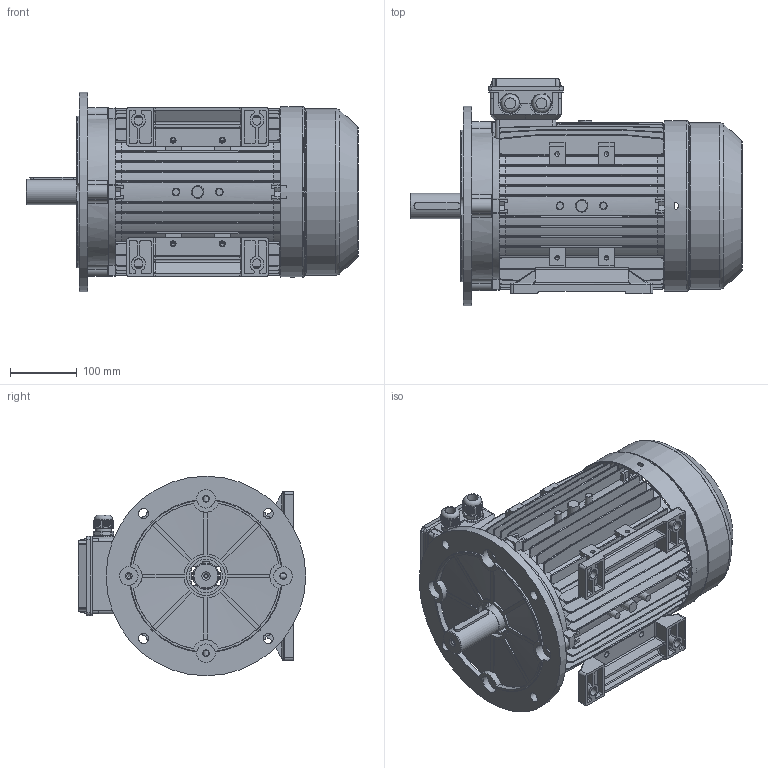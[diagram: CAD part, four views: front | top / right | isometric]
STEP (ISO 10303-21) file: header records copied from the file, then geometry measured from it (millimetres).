
FILE_DESCRIPTION(/* description */ ('STEP AP203'),/* implementation_level */ '2;1');
FILE_NAME(/* name */ 'U:\D2\1_INTRANET\2_3 DATA-SHEET PLAN COURBES\FAM 10 MOTEURS\MH1_MH2_MH3\Plan 3D MH3\MH3-132\MH3-132M4、MX6 assembly B35.STEP',/* time_stamp */ '2022-03-18T14:44:19+01:00',/* author */ ('cao'),/* organization */ ('Microsoft'),/* preprocessor_version */ 'ST-DEVELOPER v17',/* originating_system */ 'Autodesk Inventor 2019',/* authorisation */ '');
FILE_SCHEMA (('AUTOMOTIVE_DESIGN { 1 0 10303 214 3 1 1 }'));
Products named in the file (9): MH3-132M4、MX6 assembly B35; M132»ú¿Ç_L; M132·çÕÖ_117; MS132½ÓÏßºÐ¸Ç; M132¶Ë¸ÇB5; MS132½ÓÏßºÐ×ù_2Holes; M25 cable gland; M132-Shaft drive end_DNF; M132µ×½Å(µ¥¿×)_L
Assembly tree (10 placements, depth 2):
  MH3-132M4、MX6 assembly B35
    M132»ú¿Ç_L
    M132·çÕÖ_117
    MS132½ÓÏßºÐ¸Ç
    M132¶Ë¸ÇB5
    MS132½ÓÏßºÐ×ù_2Holes
    M25 cable gland  x2
    M132-Shaft drive end_DNF
    M132µ×½Å(µ¥¿×)_L  x2
Bounding box: 498.99 x 342 x 300 mm (x, y, z)
Volume: 2874247.1 mm3; surface area: 1493318.9 mm2
Topology: 12 solids, 12 shells, 3638 faces, 10179 edges, 6545 vertices
Faces by surface type: plane 1945, cylinder 838, bspline 622, cone 182, torus 35, sphere 16
Full cylindrical faces by diameter (mm): 4 x1, 4.2 x12, 5 x5, 6 x4, 6.8 x13, 9 x11, 10 x4, 12 x1, 15 x6, 16.5 x2, 20.5 x4, 23.5 x18, 25 x2, 27.5 x2, 28 x4, 38 x1, 40 x1, 50 x1, 58 x1, 78 x1, 90 x1, 206 x1, 210 x1, 212 x2, 213 x3, 247.6 x1, 250 x1, 254 x1, 256.4 x1, 300 x1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
Entity records: 153415 total; most frequent: CARTESIAN_POINT 73523, ORIENTED_EDGE 17802, DIRECTION 14909, EDGE_CURVE 8901, VERTEX_POINT 5744, LINE 5173, VECTOR 5173, AXIS2_PLACEMENT_3D 4868
